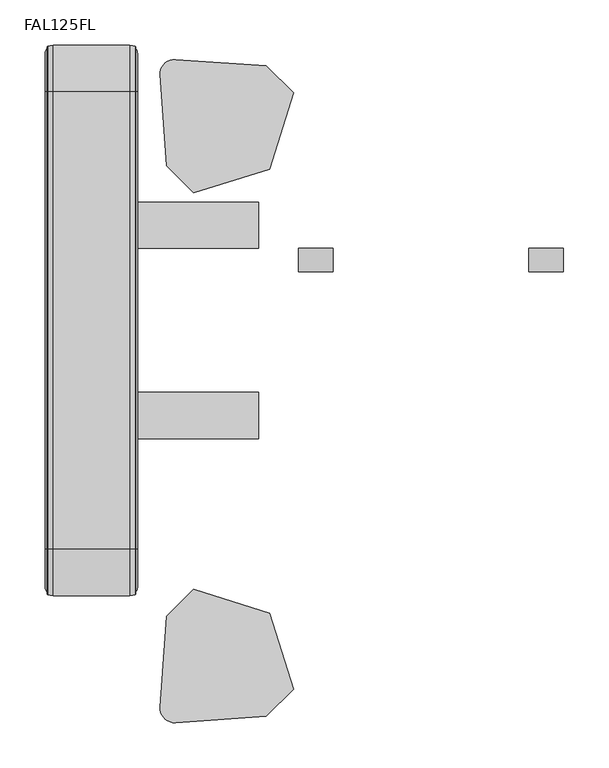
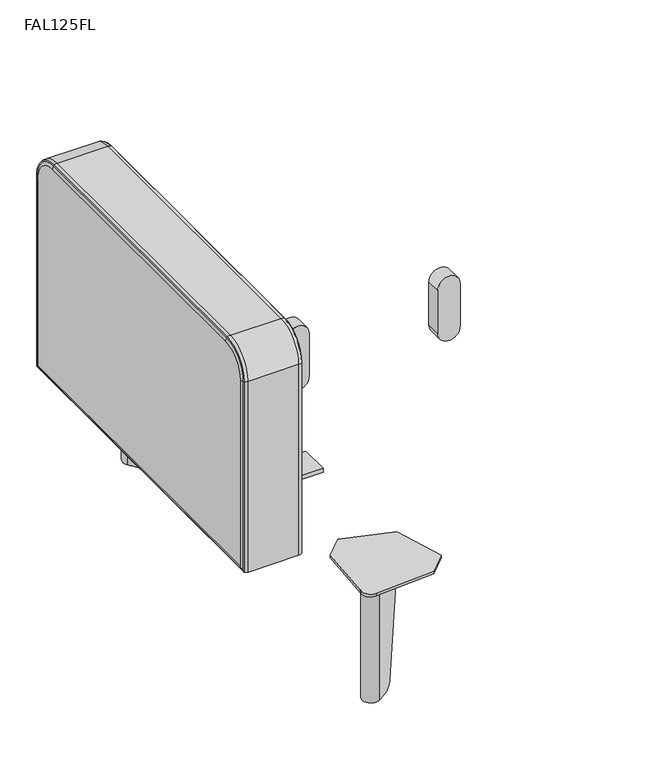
"""IFC4 building model written with IfcOpenShell, lengths in millimetres: furniture geometry, Stance_HC-Flora-Seat_Straight : FAL125FL."""

from ifc_helpers import new_model, si_unit, point, frame, frame_2d, origin, origin_with_axes, place, context, project, spatial, polyline, circle_curve, ellipse_curve, trimmed, segment, composite_curve, outline, extrude, source, transform, mapped, element, save
from ifc_brep_helpers import plane_surface, cylinder_surface, revolved_surface, advanced_brep


def fal125fl_39e8f560(model_context):
    return source(origin(), model_context, "Body", "SolidModel", [
        extrude(outline(composite_curve([segment(polyline([(319.1128982, -12.699997), (319.1128982, -19.0500091), (204.8129042, -19.0500091)]), True, "CONTINUOUS"), segment(trimmed(circle_curve(frame_2d((204.8129042, -6.349997)), 12.7000121), [point((204.8129042, -19.0500091))], [point((192.1128921, -6.349997))], False, "CARTESIAN"), True, "CONTINUOUS"), segment(polyline([(192.1128921, -6.349997), (192.1128921, 126.999997), (198.4629042, 126.999997), (198.4629042, -6.349997)]), True, "CONTINUOUS"), segment(trimmed(circle_curve(frame_2d((204.8129042, -6.349997)), 6.35), [point((198.4629042, -6.349997))], [point((204.8129042, -12.699997))], True, "CARTESIAN"), True, "CONTINUOUS"), segment(polyline([(204.8129042, -12.699997), (319.1128982, -12.699997)]), True, "CONTINUOUS")], self_intersect=False)), frame((0.0, -223.8501991, 0.0), z_axis=(0.0, 1.0, 0.0), x_axis=(0.0, 0.0, 1.0)), (0.0, 0.0, 1.0), 50.7999879),
        extrude(outline(composite_curve([segment(polyline([(319.1128982, -12.699997), (319.1128982, -19.0500091), (204.8129042, -19.0500091)]), True, "CONTINUOUS"), segment(trimmed(circle_curve(frame_2d((204.8129042, -6.349997)), 12.7000121), [point((204.8129042, -19.0500091))], [point((192.1128921, -6.349997))], False, "CARTESIAN"), True, "CONTINUOUS"), segment(polyline([(192.1128921, -6.349997), (192.1128921, 126.999997), (198.4629042, 126.999997), (198.4629042, -6.349997)]), True, "CONTINUOUS"), segment(trimmed(circle_curve(frame_2d((204.8129042, -6.349997)), 6.35), [point((198.4629042, -6.349997))], [point((204.8129042, -12.699997))], True, "CARTESIAN"), True, "CONTINUOUS"), segment(polyline([(204.8129042, -12.699997), (319.1128982, -12.699997)]), True, "CONTINUOUS")], self_intersect=False)), frame((0.0, -433.3239864, 0.0), z_axis=(0.0, 1.0, 0.0), x_axis=(0.0, 0.0, 1.0)), (0.0, 0.0, 1.0), 50.7999879),
        advanced_brep(
        [(-6.3499485, -555.6250121, 580.256636), (-6.3499485, -597.6937621, 538.187886), (-6.3499485, -597.6937621, 207.1941542), (-6.3499485, -8.73125, 207.1941542), (-6.3499485, -8.73125, 538.187886), (-6.3499485, -50.8, 580.256636), (-107.949997, -597.6937621, 538.187886), (-107.949997, -555.6250121, 580.256636), (-107.949997, -50.8, 580.256636), (-107.949997, -8.73125, 538.187886), (-107.949997, -8.73125, 207.1941542), (-107.949997, -597.6937621, 207.1941542), (-14.834142, -606.4250121, 538.187886), (-14.834142, -555.6250121, 588.987886), (-99.4658035, -555.6250121, 588.987886), (-99.4658035, -606.4250121, 538.187886), (-99.4658035, -606.4250121, 198.4629042), (-14.834142, -606.4250121, 198.4629042), (-99.4658035, 0.0, 198.4629042), (-14.834142, 0.0, 198.4629042), (-99.4658035, 0.0, 538.187886), (-14.834142, 0.0, 538.187886), (-99.4658035, -50.8, 588.987886), (-14.834142, -50.8, 588.987886), (-105.3065441, -603.3867316, 538.187886), (-105.3065441, -555.6250121, 585.9496056), (-105.3689212, -605.3204213, 538.187886), (-105.3689212, -555.6250121, 587.8832953), (-105.3065441, -603.3867316, 201.5011847), (-105.3689212, -605.3204213, 199.567495), (-105.3065441, -3.0382805, 201.5011847), (-105.3689212, -1.1045908, 199.567495), (-105.3065441, -3.0382805, 538.187886), (-105.3689212, -1.1045908, 538.187886), (-105.3065441, -50.8, 585.9496056), (-105.3689212, -50.8, 587.8832953), (-8.9310243, -605.3204213, 538.187886), (-8.9310243, -555.6250121, 587.8832953), (-8.9934014, -603.3867316, 538.187886), (-8.9934014, -555.6250121, 585.9496056), (-8.9310243, -605.3204213, 199.567495), (-8.9934014, -603.3867316, 201.5011847), (-8.9310243, -1.1045908, 199.567495), (-8.9934014, -3.0382805, 201.5011847), (-8.9310243, -1.1045908, 538.187886), (-8.9934014, -3.0382805, 538.187886), (-8.9310243, -50.8, 587.8832953), (-8.9934014, -50.8, 585.9496056)],
        [
            (0, 1, circle_curve(frame((-6.3499485, -555.6250121, 538.187886), z_axis=(1.0, 0.0, 0.0), x_axis=(0.0, 0.0, 1.0)), 42.06875)),
            (1, 2),
            (2, 3),
            (3, 4),
            (4, 5, circle_curve(frame((-6.3499485, -50.8, 538.187886), z_axis=(1.0, 0.0, 0.0), x_axis=(0.0, 1.0, 0.0)), 42.06875)),
            (5, 0),
            (6, 7, circle_curve(frame((-107.949997, -555.6250121, 538.187886), z_axis=(-1.0, 0.0, 0.0), x_axis=(0.0, 0.0, 1.0)), 42.06875)),
            (7, 8),
            (8, 9, circle_curve(frame((-107.949997, -50.8, 538.187886), z_axis=(-1.0, 0.0, 0.0), x_axis=(0.0, 1.0, 0.0)), 42.06875)),
            (9, 10),
            (10, 11),
            (11, 6),
            (12, 13, circle_curve(frame((-14.834142, -555.6250121, 538.187886), z_axis=(-1.0, 0.0, 0.0), x_axis=(0.0, 0.0, 1.0)), 50.8)),
            (13, 14),
            (14, 15, circle_curve(frame((-99.4658035, -555.6250121, 538.187886), z_axis=(1.0, 0.0, 0.0), x_axis=(0.0, 0.0, 1.0)), 50.8)),
            (15, 12),
            (15, 16),
            (16, 17),
            (17, 12),
            (16, 18),
            (18, 19),
            (19, 17),
            (18, 20),
            (20, 21),
            (21, 19),
            (20, 22, circle_curve(frame((-99.4658035, -50.8, 538.187886), z_axis=(1.0, 0.0, 0.0), x_axis=(0.0, 1.0, 0.0)), 50.8)),
            (22, 23),
            (23, 21, circle_curve(frame((-14.834142, -50.8, 538.187886), z_axis=(-1.0, 0.0, 0.0), x_axis=(0.0, 1.0, 0.0)), 50.8)),
            (13, 23),
            (22, 14),
            (24, 25, circle_curve(frame((-105.3065441, -555.6250121, 538.187886), z_axis=(-1.0, 0.0, 0.0), x_axis=(0.0, 0.0, 1.0)), 47.7617195)),
            (25, 7, circle_curve(frame((-100.4980492, -555.6250121, 580.256636), z_axis=(0.0, -1.0, 0.0), x_axis=(0.0, 0.0, -1.0)), 7.4519478)),
            (6, 24, circle_curve(frame((-100.4980492, -597.6937621, 538.187886), z_axis=(0.0, 0.0, 1.0), x_axis=(0.0, 1.0, 0.0)), 7.4519478)),
            (24, 26, circle_curve(frame((-104.9982081, -604.3645289, 538.187886), z_axis=(0.0, 0.0, 1.0), x_axis=(0.0, 1.0, 0.0)), 1.0252602)),
            (26, 27, circle_curve(frame((-105.3689212, -555.6250121, 538.187886), z_axis=(-1.0, 0.0, 0.0), x_axis=(0.0, 0.0, 1.0)), 49.6954092)),
            (27, 25, circle_curve(frame((-104.9982081, -555.6250121, 586.9274028), z_axis=(0.0, -1.0, 0.0), x_axis=(0.0, 0.0, -1.0)), 1.0252602)),
            (14, 27, circle_curve(frame((-99.4658035, -555.6250121, 572.661967), z_axis=(0.0, -1.0, 0.0), x_axis=(0.0, 0.0, -1.0)), 16.3259191)),
            (26, 15, circle_curve(frame((-99.4658035, -590.099093, 538.187886), z_axis=(0.0, 0.0, 1.0), x_axis=(0.0, 1.0, 0.0)), 16.3259191)),
            (11, 28, ellipse_curve(frame((-100.4980492, -597.6937621, 207.1941542), z_axis=(0.0, -0.7071067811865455, 0.7071067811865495), x_axis=(0.0, 0.7071067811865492, 0.7071067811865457)), 10.5386456, 7.4519478)),
            (28, 24),
            (28, 29, ellipse_curve(frame((-104.9982081, -604.3645289, 200.5233874), z_axis=(0.0, -0.7071067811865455, 0.7071067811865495), x_axis=(0.0, 0.7071067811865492, 0.7071067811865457)), 1.4499369, 1.0252602)),
            (29, 26),
            (29, 16, ellipse_curve(frame((-99.4658035, -590.099093, 214.7888233), z_axis=(0.0, -0.7071067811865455, 0.7071067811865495), x_axis=(0.0, 0.7071067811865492, 0.7071067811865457)), 23.0883362, 16.3259191)),
            (10, 30, ellipse_curve(frame((-100.4980492, -8.73125, 207.1941542), z_axis=(0.0, -0.7071067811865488, -0.7071067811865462), x_axis=(0.0, -0.7071067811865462, 0.7071067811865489)), 10.5386456, 7.4519478)),
            (30, 28),
            (30, 31, ellipse_curve(frame((-104.9982081, -2.0604832, 200.5233874), z_axis=(0.0, -0.7071067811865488, -0.7071067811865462), x_axis=(0.0, -0.7071067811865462, 0.7071067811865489)), 1.4499369, 1.0252602)),
            (31, 29),
            (31, 18, ellipse_curve(frame((-99.4658035, -16.3259191, 214.7888233), z_axis=(0.0, -0.7071067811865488, -0.7071067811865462), x_axis=(0.0, -0.7071067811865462, 0.7071067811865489)), 23.0883362, 16.3259191)),
            (9, 32, circle_curve(frame((-100.4980492, -8.73125, 538.187886), z_axis=(0.0, 0.0, -1.0), x_axis=(0.0, -1.0, 0.0)), 7.4519478)),
            (32, 30),
            (32, 33, circle_curve(frame((-104.9982081, -2.0604832, 538.187886), z_axis=(0.0, 0.0, -1.0), x_axis=(0.0, -1.0, 0.0)), 1.0252602)),
            (33, 31),
            (33, 20, circle_curve(frame((-99.4658035, -16.3259191, 538.187886), z_axis=(0.0, 0.0, -1.0), x_axis=(0.0, -1.0, 0.0)), 16.3259191)),
            (8, 34, circle_curve(frame((-100.4980492, -50.8, 580.256636), z_axis=(0.0, 1.0, 0.0), x_axis=(0.0, 0.0, -1.0)), 7.4519478)),
            (34, 32, circle_curve(frame((-105.3065441, -50.8, 538.187886), z_axis=(-1.0, 0.0, 0.0), x_axis=(0.0, 1.0, 0.0)), 47.7617195)),
            (34, 35, circle_curve(frame((-104.9982081, -50.8, 586.9274028), z_axis=(0.0, 1.0, 0.0), x_axis=(0.0, 0.0, -1.0)), 1.0252602)),
            (35, 33, circle_curve(frame((-105.3689212, -50.8, 538.187886), z_axis=(-1.0, 0.0, 0.0), x_axis=(0.0, 1.0, 0.0)), 49.6954092)),
            (35, 22, circle_curve(frame((-99.4658035, -50.8, 572.661967), z_axis=(0.0, 1.0, 0.0), x_axis=(0.0, 0.0, -1.0)), 16.3259191)),
            (25, 34),
            (27, 35),
            (12, 36, circle_curve(frame((-14.834142, -590.099093, 538.187886), z_axis=(0.0, 0.0, 1.0), x_axis=(0.0, 1.0, 0.0)), 16.3259191)),
            (36, 37, circle_curve(frame((-8.9310243, -555.6250121, 538.187886), z_axis=(-1.0, 0.0, 0.0), x_axis=(0.0, 0.0, 1.0)), 49.6954092)),
            (37, 13, circle_curve(frame((-14.834142, -555.6250121, 572.661967), z_axis=(0.0, -1.0, 0.0), x_axis=(0.0, 0.0, -1.0)), 16.3259191)),
            (36, 38, circle_curve(frame((-9.3017374, -604.3645289, 538.187886), z_axis=(0.0, 0.0, 1.0), x_axis=(0.0, 1.0, 0.0)), 1.0252602)),
            (38, 39, circle_curve(frame((-8.9934014, -555.6250121, 538.187886), z_axis=(-1.0, 0.0, 0.0), x_axis=(0.0, 0.0, 1.0)), 47.7617195)),
            (39, 37, circle_curve(frame((-9.3017374, -555.6250121, 586.9274028), z_axis=(0.0, -1.0, 0.0), x_axis=(0.0, 0.0, -1.0)), 1.0252602)),
            (38, 1, circle_curve(frame((-13.8018963, -597.6937621, 538.187886), z_axis=(0.0, 0.0, 1.0), x_axis=(0.0, 1.0, 0.0)), 7.4519478)),
            (0, 39, circle_curve(frame((-13.8018963, -555.6250121, 580.256636), z_axis=(0.0, -1.0, 0.0), x_axis=(0.0, 0.0, -1.0)), 7.4519478)),
            (17, 40, ellipse_curve(frame((-14.834142, -590.099093, 214.7888233), z_axis=(0.0, -0.7071067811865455, 0.7071067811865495), x_axis=(0.0, 0.7071067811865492, 0.7071067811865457)), 23.0883362, 16.3259191)),
            (40, 36),
            (40, 41, ellipse_curve(frame((-9.3017374, -604.3645289, 200.5233874), z_axis=(0.0, -0.7071067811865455, 0.7071067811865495), x_axis=(0.0, 0.7071067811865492, 0.7071067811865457)), 1.4499369, 1.0252602)),
            (41, 38),
            (41, 2, ellipse_curve(frame((-13.8018963, -597.6937621, 207.1941542), z_axis=(0.0, -0.7071067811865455, 0.7071067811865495), x_axis=(0.0, 0.7071067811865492, 0.7071067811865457)), 10.5386456, 7.4519478)),
            (19, 42, ellipse_curve(frame((-14.834142, -16.3259191, 214.7888233), z_axis=(0.0, -0.7071067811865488, -0.7071067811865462), x_axis=(0.0, -0.7071067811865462, 0.7071067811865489)), 23.0883362, 16.3259191)),
            (42, 40),
            (42, 43, ellipse_curve(frame((-9.3017374, -2.0604832, 200.5233874), z_axis=(0.0, -0.7071067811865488, -0.7071067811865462), x_axis=(0.0, -0.7071067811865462, 0.7071067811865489)), 1.4499369, 1.0252602)),
            (43, 41),
            (43, 3, ellipse_curve(frame((-13.8018963, -8.73125, 207.1941542), z_axis=(0.0, -0.7071067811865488, -0.7071067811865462), x_axis=(0.0, -0.7071067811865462, 0.7071067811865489)), 10.5386456, 7.4519478)),
            (21, 44, circle_curve(frame((-14.834142, -16.3259191, 538.187886), z_axis=(0.0, 0.0, -1.0), x_axis=(0.0, -1.0, 0.0)), 16.3259191)),
            (44, 42),
            (44, 45, circle_curve(frame((-9.3017374, -2.0604832, 538.187886), z_axis=(0.0, 0.0, -1.0), x_axis=(0.0, -1.0, 0.0)), 1.0252602)),
            (45, 43),
            (45, 4, circle_curve(frame((-13.8018963, -8.73125, 538.187886), z_axis=(0.0, 0.0, -1.0), x_axis=(0.0, -1.0, 0.0)), 7.4519478)),
            (23, 46, circle_curve(frame((-14.834142, -50.8, 572.661967), z_axis=(0.0, 1.0, 0.0), x_axis=(0.0, 0.0, -1.0)), 16.3259191)),
            (46, 44, circle_curve(frame((-8.9310243, -50.8, 538.187886), z_axis=(-1.0, 0.0, 0.0), x_axis=(0.0, 1.0, 0.0)), 49.6954092)),
            (46, 47, circle_curve(frame((-9.3017374, -50.8, 586.9274028), z_axis=(0.0, 1.0, 0.0), x_axis=(0.0, 0.0, -1.0)), 1.0252602)),
            (47, 45, circle_curve(frame((-8.9934014, -50.8, 538.187886), z_axis=(-1.0, 0.0, 0.0), x_axis=(0.0, 1.0, 0.0)), 47.7617195)),
            (47, 5, circle_curve(frame((-13.8018963, -50.8, 580.256636), z_axis=(0.0, 1.0, 0.0), x_axis=(0.0, 0.0, -1.0)), 7.4519478)),
            (37, 46),
            (39, 47),
        ],
        [
            plane_surface(frame((-6.3499485, -555.6250121, 580.256636), z_axis=(1.0, 0.0, 0.0), x_axis=(0.0, -1.0, 0.0))),
            plane_surface(frame((-107.949997, -555.6250121, 580.256636), z_axis=(-1.0, 0.0, 0.0), x_axis=(0.0, 1.0, 0.0))),
            cylinder_surface(frame((0.0, -555.6250121, 538.187886), z_axis=(1.0, 0.0, 0.0), x_axis=(0.0, 0.0, 1.0)), 50.8),
            plane_surface(frame((-99.4658035, -606.4250121, 538.187886), z_axis=(0.0, -1.0, 0.0), x_axis=(0.0, 0.0, -1.0))),
            plane_surface(frame((-99.4658035, -606.4250121, 198.4629042), z_axis=(0.0, 0.0, -1.0), x_axis=(0.0, 1.0, 0.0))),
            plane_surface(frame((-99.4658035, 0.0, 198.4629042), z_axis=(0.0, 1.0, 0.0), x_axis=(0.0, 0.0, 1.0))),
            cylinder_surface(frame((0.0, -50.8, 538.187886), z_axis=(1.0, 0.0, 0.0), x_axis=(0.0, 1.0, 0.0)), 50.8),
            plane_surface(frame((-99.4658035, -50.8, 588.987886), z_axis=(0.0, 0.0, 1.0), x_axis=(0.0, -1.0, 0.0))),
            revolved_surface(trimmed(ellipse_curve(frame((-100.4980492, -555.6250121, 580.256636), z_axis=(0.0, 1.0, 0.0), x_axis=(0.0, 0.0, -1.0)), 7.4519478, 7.4519478), [point((-107.949997, -555.6250121, 580.256636))], [point((-105.3065441, -555.6250121, 585.9496056))], True, "CARTESIAN"), (0.0, -555.6250121, 538.187886), (1.0, 0.0, 0.0)),
            revolved_surface(trimmed(ellipse_curve(frame((-104.9982081, -555.6250121, 586.9274028), z_axis=(0.0, 1.0, 0.0), x_axis=(0.0, 0.0, -1.0)), 1.0252602, 1.0252602), [point((-105.3065441, -555.6250121, 585.9496056))], [point((-105.3689212, -555.6250121, 587.8832953))], True, "CARTESIAN"), (0.0, -555.6250121, 538.187886), (1.0, 0.0, 0.0)),
            revolved_surface(trimmed(ellipse_curve(frame((-99.4658035, -555.6250121, 572.661967), z_axis=(0.0, 1.0, 0.0), x_axis=(0.0, 0.0, -1.0)), 16.3259191, 16.3259191), [point((-105.3689212, -555.6250121, 587.8832953))], [point((-99.4658035, -555.6250121, 588.987886))], True, "CARTESIAN"), (0.0, -555.6250121, 538.187886), (1.0, 0.0, 0.0)),
            cylinder_surface(frame((-100.4980492, -597.6937621, 538.187886), z_axis=(0.0, 0.0, 1.0), x_axis=(0.0, 1.0, 0.0)), 7.4519478),
            cylinder_surface(frame((-104.9982081, -604.3645289, 538.187886), z_axis=(0.0, 0.0, 1.0), x_axis=(0.0, 1.0, 0.0)), 1.0252602),
            cylinder_surface(frame((-99.4658035, -590.099093, 538.187886), z_axis=(0.0, 0.0, 1.0), x_axis=(0.0, 1.0, 0.0)), 16.3259191),
            cylinder_surface(frame((-100.4980492, -606.4250121, 207.1941542), z_axis=(0.0, -1.0, 0.0), x_axis=(0.0, 0.0, 1.0)), 7.4519478),
            cylinder_surface(frame((-104.9982081, -606.4250121, 200.5233874), z_axis=(0.0, -1.0, 0.0), x_axis=(0.0, 0.0, 1.0)), 1.0252602),
            cylinder_surface(frame((-99.4658035, -606.4250121, 214.7888233), z_axis=(0.0, -1.0, 0.0), x_axis=(0.0, 0.0, 1.0)), 16.3259191),
            cylinder_surface(frame((-100.4980492, -8.73125, 198.4629042), z_axis=(0.0, 0.0, -1.0), x_axis=(0.0, -1.0, 0.0)), 7.4519478),
            cylinder_surface(frame((-104.9982081, -2.0604832, 198.4629042), z_axis=(0.0, 0.0, -1.0), x_axis=(0.0, -1.0, 0.0)), 1.0252602),
            cylinder_surface(frame((-99.4658035, -16.3259191, 198.4629042), z_axis=(0.0, 0.0, -1.0), x_axis=(0.0, -1.0, 0.0)), 16.3259191),
            revolved_surface(trimmed(ellipse_curve(frame((-100.4980492, -8.73125, 538.187886), z_axis=(0.0, 0.0, -1.0), x_axis=(0.0, -1.0, 0.0)), 7.4519478, 7.4519478), [point((-107.949997, -8.73125, 538.187886))], [point((-105.3065441, -3.0382805, 538.187886))], True, "CARTESIAN"), (0.0, -50.8, 538.187886), (1.0, 0.0, 0.0)),
            revolved_surface(trimmed(ellipse_curve(frame((-104.9982081, -2.0604832, 538.187886), z_axis=(0.0, 0.0, -1.0), x_axis=(0.0, -1.0, 0.0)), 1.0252602, 1.0252602), [point((-105.3065441, -3.0382805, 538.187886))], [point((-105.3689212, -1.1045908, 538.187886))], True, "CARTESIAN"), (0.0, -50.8, 538.187886), (1.0, 0.0, 0.0)),
            revolved_surface(trimmed(ellipse_curve(frame((-99.4658035, -16.3259191, 538.187886), z_axis=(0.0, 0.0, -1.0), x_axis=(0.0, -1.0, 0.0)), 16.3259191, 16.3259191), [point((-105.3689212, -1.1045908, 538.187886))], [point((-99.4658035, 0.0, 538.187886))], True, "CARTESIAN"), (0.0, -50.8, 538.187886), (1.0, 0.0, 0.0)),
            cylinder_surface(frame((-100.4980492, -50.8, 580.256636), z_axis=(0.0, 1.0, 0.0), x_axis=(0.0, 0.0, -1.0)), 7.4519478),
            cylinder_surface(frame((-104.9982081, -50.8, 586.9274028), z_axis=(0.0, 1.0, 0.0), x_axis=(0.0, 0.0, -1.0)), 1.0252602),
            cylinder_surface(frame((-99.4658035, -50.8, 572.661967), z_axis=(0.0, 1.0, 0.0), x_axis=(0.0, 0.0, -1.0)), 16.3259191),
            revolved_surface(trimmed(ellipse_curve(frame((-14.834142, -555.6250121, 572.661967), z_axis=(0.0, 1.0, 0.0), x_axis=(0.0, 0.0, -1.0)), 16.3259191, 16.3259191), [point((-14.834142, -555.6250121, 588.987886))], [point((-8.9310243, -555.6250121, 587.8832953))], True, "CARTESIAN"), (0.0, -555.6250121, 538.187886), (1.0, 0.0, 0.0)),
            revolved_surface(trimmed(ellipse_curve(frame((-9.3017374, -555.6250121, 586.9274028), z_axis=(0.0, 1.0, 0.0), x_axis=(0.0, 0.0, -1.0)), 1.0252602, 1.0252602), [point((-8.9310243, -555.6250121, 587.8832953))], [point((-8.9934014, -555.6250121, 585.9496056))], True, "CARTESIAN"), (0.0, -555.6250121, 538.187886), (1.0, 0.0, 0.0)),
            revolved_surface(trimmed(ellipse_curve(frame((-13.8018963, -555.6250121, 580.256636), z_axis=(0.0, 1.0, 0.0), x_axis=(0.0, 0.0, -1.0)), 7.4519478, 7.4519478), [point((-8.9934014, -555.6250121, 585.9496056))], [point((-6.3499485, -555.6250121, 580.256636))], True, "CARTESIAN"), (0.0, -555.6250121, 538.187886), (1.0, 0.0, 0.0)),
            cylinder_surface(frame((-14.834142, -590.099093, 538.187886), z_axis=(0.0, 0.0, 1.0), x_axis=(0.0, 1.0, 0.0)), 16.3259191),
            cylinder_surface(frame((-9.3017374, -604.3645289, 538.187886), z_axis=(0.0, 0.0, 1.0), x_axis=(0.0, 1.0, 0.0)), 1.0252602),
            cylinder_surface(frame((-13.8018963, -597.6937621, 538.187886), z_axis=(0.0, 0.0, 1.0), x_axis=(0.0, 1.0, 0.0)), 7.4519478),
            cylinder_surface(frame((-14.834142, -606.4250121, 214.7888233), z_axis=(0.0, -1.0, 0.0), x_axis=(0.0, 0.0, 1.0)), 16.3259191),
            cylinder_surface(frame((-9.3017374, -606.4250121, 200.5233874), z_axis=(0.0, -1.0, 0.0), x_axis=(0.0, 0.0, 1.0)), 1.0252602),
            cylinder_surface(frame((-13.8018963, -606.4250121, 207.1941542), z_axis=(0.0, -1.0, 0.0), x_axis=(0.0, 0.0, 1.0)), 7.4519478),
            cylinder_surface(frame((-14.834142, -16.3259191, 198.4629042), z_axis=(0.0, 0.0, -1.0), x_axis=(0.0, -1.0, 0.0)), 16.3259191),
            cylinder_surface(frame((-9.3017374, -2.0604832, 198.4629042), z_axis=(0.0, 0.0, -1.0), x_axis=(0.0, -1.0, 0.0)), 1.0252602),
            cylinder_surface(frame((-13.8018963, -8.73125, 198.4629042), z_axis=(0.0, 0.0, -1.0), x_axis=(0.0, -1.0, 0.0)), 7.4519478),
            revolved_surface(trimmed(ellipse_curve(frame((-14.834142, -16.3259191, 538.187886), z_axis=(0.0, 0.0, -1.0), x_axis=(0.0, -1.0, 0.0)), 16.3259191, 16.3259191), [point((-14.834142, 0.0, 538.187886))], [point((-8.9310243, -1.1045908, 538.187886))], True, "CARTESIAN"), (0.0, -50.8, 538.187886), (1.0, 0.0, 0.0)),
            revolved_surface(trimmed(ellipse_curve(frame((-9.3017374, -2.0604832, 538.187886), z_axis=(0.0, 0.0, -1.0), x_axis=(0.0, -1.0, 0.0)), 1.0252602, 1.0252602), [point((-8.9310243, -1.1045908, 538.187886))], [point((-8.9934014, -3.0382805, 538.187886))], True, "CARTESIAN"), (0.0, -50.8, 538.187886), (1.0, 0.0, 0.0)),
            revolved_surface(trimmed(ellipse_curve(frame((-13.8018963, -8.73125, 538.187886), z_axis=(0.0, 0.0, -1.0), x_axis=(0.0, -1.0, 0.0)), 7.4519478, 7.4519478), [point((-8.9934014, -3.0382805, 538.187886))], [point((-6.3499485, -8.73125, 538.187886))], True, "CARTESIAN"), (0.0, -50.8, 538.187886), (1.0, 0.0, 0.0)),
            cylinder_surface(frame((-14.834142, -50.8, 572.661967), z_axis=(0.0, 1.0, 0.0), x_axis=(0.0, 0.0, -1.0)), 16.3259191),
            cylinder_surface(frame((-9.3017374, -50.8, 586.9274028), z_axis=(0.0, 1.0, 0.0), x_axis=(0.0, 0.0, -1.0)), 1.0252602),
            cylinder_surface(frame((-13.8018963, -50.8, 580.256636), z_axis=(0.0, 1.0, 0.0), x_axis=(0.0, 0.0, -1.0)), 7.4519478),
        ],
        [
            (0, [[1, 2, 3, 4, 5, 6]]),
            (1, [[7, 8, 9, 10, 11, 12]]),
            (2, [[13, 14, 15, 16]]),
            (3, [[-16, 17, 18, 19]]),
            (4, [[-18, 20, 21, 22]]),
            (5, [[-21, 23, 24, 25]]),
            (6, [[-24, 26, 27, 28]]),
            (7, [[-14, 29, -27, 30]]),
            (8, [[31, 32, -7, 33]]),
            (9, [[-31, 34, 35, 36]]),
            (10, [[-15, 37, -35, 38]]),
            (11, [[-33, -12, 39, 40]]),
            (12, [[-34, -40, 41, 42]]),
            (13, [[-17, -38, -42, 43]]),
            (14, [[-39, -11, 44, 45]]),
            (15, [[-41, -45, 46, 47]]),
            (16, [[-20, -43, -47, 48]]),
            (17, [[-44, -10, 49, 50]]),
            (18, [[-46, -50, 51, 52]]),
            (19, [[-23, -48, -52, 53]]),
            (20, [[-49, -9, 54, 55]]),
            (21, [[-51, -55, 56, 57]]),
            (22, [[-26, -53, -57, 58]]),
            (23, [[-32, 59, -54, -8]]),
            (24, [[-36, 60, -56, -59]]),
            (25, [[-30, -58, -60, -37]]),
            (26, [[-13, 61, 62, 63]]),
            (27, [[-62, 64, 65, 66]]),
            (28, [[-65, 67, -1, 68]]),
            (29, [[-19, 69, 70, -61]]),
            (30, [[-64, -70, 71, 72]]),
            (31, [[-67, -72, 73, -2]]),
            (32, [[-22, 74, 75, -69]]),
            (33, [[-71, -75, 76, 77]]),
            (34, [[-73, -77, 78, -3]]),
            (35, [[-25, 79, 80, -74]]),
            (36, [[-76, -80, 81, 82]]),
            (37, [[-78, -82, 83, -4]]),
            (38, [[-28, 84, 85, -79]]),
            (39, [[-81, -85, 86, 87]]),
            (40, [[-83, -87, 88, -5]]),
            (41, [[-29, -63, 89, -84]]),
            (42, [[-66, 90, -86, -89]]),
            (43, [[-68, -6, -88, -90]]),
        ],
    ),
        extrude(outline(composite_curve([segment(polyline([(298.45, 425.45), (222.25, 425.45)]), True, "CONTINUOUS"), segment(trimmed(circle_curve(frame_2d((222.25, 444.5)), 19.05), [point((222.25, 425.45))], [point((222.25, 463.55))], False, "CARTESIAN"), True, "CONTINUOUS"), segment(polyline([(222.25, 463.55), (298.45, 463.55)]), True, "CONTINUOUS"), segment(trimmed(circle_curve(frame_2d((298.45, 444.5)), 19.05), [point((298.45, 463.55))], [point((298.45, 425.45))], False, "CARTESIAN"), True, "CONTINUOUS")], self_intersect=False)), frame((0.0, -249.250193, 0.0), z_axis=(0.0, 1.0, 0.0), x_axis=(0.0, 0.0, 1.0)), (0.0, 0.0, 1.0), 25.3999939),
        extrude(outline(composite_curve([segment(polyline([(298.45, 171.45), (222.25, 171.45)]), True, "CONTINUOUS"), segment(trimmed(circle_curve(frame_2d((222.25, 190.5)), 19.05), [point((222.25, 171.45))], [point((222.25, 209.55))], False, "CARTESIAN"), True, "CONTINUOUS"), segment(polyline([(222.25, 209.55), (298.45, 209.55)]), True, "CONTINUOUS"), segment(trimmed(circle_curve(frame_2d((298.45, 190.5)), 19.05), [point((298.45, 209.55))], [point((298.45, 171.45))], False, "CARTESIAN"), True, "CONTINUOUS")], self_intersect=False)), frame((0.0, -249.250193, 0.0), z_axis=(0.0, 1.0, 0.0), x_axis=(0.0, 0.0, 1.0)), (0.0, 0.0, 1.0), 25.3999939),
        extrude(outline(composite_curve([segment(polyline([(55.8307262, -729.4814086), (42.5258264, -738.7976359)]), True, "CONTINUOUS"), segment(trimmed(circle_curve(frame_2d((35.875307, -729.2997467)), 11.5947965), [point((42.5258264, -738.7976359))], [point((26.3774179, -722.6492273))], False, "CARTESIAN"), True, "CONTINUOUS"), segment(polyline([(26.3774179, -722.6492273), (35.6936452, -709.3443276), (55.8307262, -729.4814086)]), True, "CONTINUOUS")], self_intersect=False)), frame((0.0, 0.0, 3.175), z_axis=(0.0, 0.0, 1.0), x_axis=(1.0, 0.0, 0.0)), (0.0, 0.0, 1.0), 3.3792927),
        advanced_brep(
        [(55.6685471, -675.2134177, 193.6877233), (23.7444406, -720.8055896, 193.6877233), (44.3694641, -741.4306132, 193.6877233), (89.9616334, -709.5065086, 193.6877233), (88.1179957, -706.8735312, 193.6877233), (42.5258264, -738.7976359, 193.6877233), (26.3774179, -722.6492273, 193.6877233), (58.3015244, -677.0570554, 193.6877233), (55.6685471, -675.2134177, 189.1419595), (26.3774179, -722.6492273, 3.1876992), (36.4981274, -708.1954123, 3.1876992), (45.6752235, -695.0892118, 17.1280233), (42.5258264, -738.7976359, 3.1876992), (70.085842, -719.4998302, 17.1280233), (56.9796414, -728.6769263, 3.1876992), (89.9616334, -709.5065086, 189.1419334), (44.3694641, -741.4306132, 3.1876992), (59.2875391, -730.984824, 3.1876992), (72.3937397, -721.8077279, 17.1280233), (23.7444406, -720.8055896, 3.1876992), (43.3673258, -692.781314, 17.1280233), (34.1902297, -705.8875146, 3.1876992)],
        [
            (0, 1),
            (1, 2, circle_curve(frame((35.875307, -729.2997467, 193.6877233), z_axis=(0.0, 0.0, 1.0), x_axis=(1.0, 0.0, 0.0)), 14.8090724)),
            (2, 3),
            (3, 4),
            (4, 5),
            (5, 6, circle_curve(frame((35.875307, -729.2997467, 193.6877233), z_axis=(0.0, 0.0, -1.0), x_axis=(1.0, 0.0, 0.0)), 11.5947965)),
            (6, 7),
            (7, 0),
            (7, 8),
            (8, 0),
            (6, 9),
            (9, 10),
            (10, 11, ellipse_curve(frame((36.4981274, -708.1954123, 19.0626992), z_axis=(0.8191509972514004, -0.5735779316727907, 0.0), x_axis=(0.5735779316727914, 0.8191509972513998, 0.0)), 16.1198923, 15.875)),
            (11, 7),
            (5, 12),
            (12, 9, circle_curve(frame((35.875307, -729.2997467, 3.1876992), z_axis=(0.0, 0.0, -1.0), x_axis=(1.0, 0.0, 0.0)), 11.5947965)),
            (4, 13),
            (13, 14, ellipse_curve(frame((56.9796414, -728.6769263, 19.0626992), z_axis=(-0.5735779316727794, 0.8191509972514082, 0.0), x_axis=(-0.8191509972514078, -0.5735779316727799, 0.0)), 16.1198923, 15.875)),
            (14, 12),
            (3, 15),
            (15, 4),
            (2, 16),
            (16, 17),
            (17, 18, ellipse_curve(frame((59.2875391, -730.984824, 19.0626992), z_axis=(0.5735779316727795, -0.8191509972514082, 0.0), x_axis=(-0.8191509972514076, -0.5735779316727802, 0.0)), 16.1198923, 15.875)),
            (18, 15),
            (1, 19),
            (19, 16, circle_curve(frame((35.875307, -729.2997467, 3.1876992), z_axis=(0.0, 0.0, 1.0), x_axis=(1.0, 0.0, 0.0)), 14.8090724)),
            (8, 20),
            (20, 21, ellipse_curve(frame((34.1902297, -705.8875146, 19.0626992), z_axis=(-0.8191509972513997, 0.5735779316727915, 0.0), x_axis=(0.573577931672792, 0.8191509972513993, 0.0)), 16.1198923, 15.875)),
            (21, 19),
            (18, 13),
            (11, 20),
            (21, 10),
            (14, 17),
        ],
        [
            plane_surface(frame((58.3015244, -677.0570554, 193.6877233), z_axis=(0.0, 0.0, 0.9999999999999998), x_axis=(0.8191509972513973, -0.5735779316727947, 0.0))),
            plane_surface(frame((55.6685471, -675.2134177, 193.6877233), z_axis=(0.5735779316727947, 0.8191509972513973, 0.0), x_axis=(0.0, 0.0, -1.0))),
            plane_surface(frame((58.3015244, -677.0570554, 193.6877233), z_axis=(0.8191509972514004, -0.5735779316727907, 0.0), x_axis=(0.0, 0.0, -1.0))),
            revolved_surface(polyline([(47.4701035, -729.2997467, 3.1876992), (47.4701035, -729.2997467, 193.6877233)]), (35.875307, -729.2997467, 0.0), (0.0, 0.0, -1.0)),
            plane_surface(frame((42.5258264, -738.7976359, 193.6877233), z_axis=(-0.5735779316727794, 0.8191509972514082, 0.0), x_axis=(0.0, 0.0, -1.0))),
            plane_surface(frame((88.1179957, -706.8735312, 193.6877233), z_axis=(0.8191509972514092, 0.5735779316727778, 0.0), x_axis=(0.0, 0.0, -1.0))),
            plane_surface(frame((89.9616334, -709.5065086, 193.6877233), z_axis=(0.5735779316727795, -0.8191509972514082, 0.0), x_axis=(0.0, 0.0, -1.0))),
            cylinder_surface(frame((35.875307, -729.2997467, 0.0), z_axis=(0.0, 0.0, 1.0), x_axis=(1.0, 0.0, 0.0)), 14.8090724),
            plane_surface(frame((23.7444406, -720.8055896, 193.6877233), z_axis=(-0.8191509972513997, 0.5735779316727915, 0.0), x_axis=(0.0, 0.0, -1.0))),
            plane_surface(frame((78.2775428, -727.6915311, 17.1280233), z_axis=(0.7018361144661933, 0.7018361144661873, -0.12186934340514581), x_axis=(-0.7071067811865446, 0.7071067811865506, 0.0))),
            plane_surface(frame((45.7871873, -760.1818865, 3.1876992), z_axis=(0.0, 0.0, -1.0), x_axis=(-0.7071067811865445, 0.7071067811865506, 0.0))),
            cylinder_surface(frame((26.3502515, -698.0475363, 19.0626992), z_axis=(-0.7071067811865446, 0.7071067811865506, 0.0), x_axis=(0.7071067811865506, 0.7071067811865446, 0.0)), 15.875),
        ],
        [
            (0, [[1, 2, 3, 4, 5, 6, 7, 8]]),
            (1, [[9, 10, -8]]),
            (2, [[11, 12, 13, 14, -7]]),
            (3, [[15, 16, -11, -6]]),
            (4, [[17, 18, 19, -15, -5]]),
            (5, [[20, 21, -4]]),
            (6, [[22, 23, 24, 25, -20, -3]]),
            (7, [[26, 27, -22, -2]]),
            (8, [[-10, 28, 29, 30, -26, -1]]),
            (9, [[-17, -21, -25, 31]]),
            (9, [[-28, -9, -14, 32]]),
            (10, [[-23, -27, -30, 33, -12, -16, -19, 34]]),
            (11, [[-13, -33, -29, -32]]),
            (11, [[-24, -34, -18, -31]]),
        ],
    ),
        extrude(outline(composite_curve([segment(trimmed(circle_curve(frame_2d((37.9086512, -727.2747796)), 11.1125), [point((26.7961512, -727.2747796))], [point((49.0211512, -727.2747796))], False, "CARTESIAN"), True, "CONTINUOUS"), segment(trimmed(circle_curve(frame_2d((37.9086512, -727.2747796)), 11.1125), [point((49.0211512, -727.2747796))], [point((26.7961512, -727.2747796))], False, "CARTESIAN"), True, "CONTINUOUS")], self_intersect=False)), origin_with_axes(), (0.0, 0.0, 1.0), 3.175),
        extrude(outline(composite_curve([segment(trimmed(circle_curve(frame_2d((34.5561989, -730.6188557)), 15.8749964), [point((35.6635825, -746.4551813))], [point((18.7198732, -729.5114723))], False, "CARTESIAN"), True, "CONTINUOUS"), segment(polyline([(18.7198732, -729.5114723), (25.7168451, -629.4500767), (55.5672188, -599.5997083), (139.5103189, -625.6647274), (165.5753535, -709.6078357), (135.7249814, -739.4582078), (35.6635825, -746.4551813)]), True, "CONTINUOUS")], self_intersect=False)), frame((0.0, 0.0, 193.6877233), z_axis=(0.0, 0.0, 1.0), x_axis=(1.0, 0.0, 0.0)), (0.0, 0.0, 1.0), 4.7751809),
        extrude(outline(composite_curve([segment(polyline([(55.8307262, -32.5186459), (35.6936452, -52.6557269), (26.3774179, -39.3508272)]), True, "CONTINUOUS"), segment(trimmed(circle_curve(frame_2d((35.875307, -32.7003078)), 11.5947965), [point((26.3774179, -39.3508272))], [point((42.5258264, -23.2024186))], False, "CARTESIAN"), True, "CONTINUOUS"), segment(polyline([(42.5258264, -23.2024186), (55.8307262, -32.5186459)]), True, "CONTINUOUS")], self_intersect=False)), frame((0.0, 0.0, 3.175), z_axis=(0.0, 0.0, 1.0), x_axis=(1.0, 0.0, 0.0)), (0.0, 0.0, 1.0), 3.3792927),
        advanced_brep(
        [(55.6685471, -86.7866368, 193.6877233), (58.3015244, -84.9429991, 193.6877233), (26.3774179, -39.3508272, 193.6877233), (42.5258264, -23.2024186, 193.6877233), (88.1179957, -55.1265233, 193.6877233), (89.9616334, -52.4935459, 193.6877233), (44.3694641, -20.5694413, 193.6877233), (23.7444406, -41.1944649, 193.6877233), (55.6685471, -86.7866368, 189.1419595), (45.6752235, -66.9108427, 17.1280233), (36.4981274, -53.8046422, 3.1876992), (26.3774179, -39.3508272, 3.1876992), (42.5258264, -23.2024186, 3.1876992), (56.9796414, -33.3231282, 3.1876992), (70.085842, -42.5002243, 17.1280233), (89.9616334, -52.4935459, 189.1419334), (72.3937397, -40.1923266, 17.1280233), (59.2875391, -31.0152305, 3.1876992), (44.3694641, -20.5694413, 3.1876992), (23.7444406, -41.1944649, 3.1876992), (34.1902297, -56.1125399, 3.1876992), (43.3673258, -69.2187405, 17.1280233)],
        [
            (0, 1),
            (1, 2),
            (2, 3, circle_curve(frame((35.875307, -32.7003078, 193.6877233), z_axis=(0.0, 0.0, -1.0), x_axis=(1.0, 0.0, 0.0)), 11.5947965)),
            (3, 4),
            (4, 5),
            (5, 6),
            (6, 7, circle_curve(frame((35.875307, -32.7003078, 193.6877233), z_axis=(0.0, 0.0, 1.0), x_axis=(1.0, 0.0, 0.0)), 14.8090724)),
            (7, 0),
            (0, 8),
            (8, 1),
            (1, 9),
            (9, 10, ellipse_curve(frame((36.4981274, -53.8046422, 19.0626992), z_axis=(0.8191509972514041, 0.5735779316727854, 0.0), x_axis=(0.5735779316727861, -0.8191509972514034, 0.0)), 16.1198923, 15.875)),
            (10, 11),
            (11, 2),
            (11, 12, circle_curve(frame((35.875307, -32.7003078, 3.1876992), z_axis=(0.0, 0.0, -1.0), x_axis=(1.0, 0.0, 0.0)), 11.5947965)),
            (12, 3),
            (12, 13),
            (13, 14, ellipse_curve(frame((56.9796414, -33.3231282, 19.0626992), z_axis=(-0.5735779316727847, -0.8191509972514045, 0.0), x_axis=(-0.8191509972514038, 0.5735779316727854, 0.0)), 16.1198923, 15.875)),
            (14, 4),
            (4, 15),
            (15, 5),
            (15, 16),
            (16, 17, ellipse_curve(frame((59.2875391, -31.0152305, 19.0626992), z_axis=(0.5735779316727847, 0.8191509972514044, 0.0), x_axis=(-0.8191509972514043, 0.573577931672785, 0.0)), 16.1198923, 15.875)),
            (17, 18),
            (18, 6),
            (18, 19, circle_curve(frame((35.875307, -32.7003078, 3.1876992), z_axis=(0.0, 0.0, 1.0), x_axis=(1.0, 0.0, 0.0)), 14.8090724)),
            (19, 7),
            (19, 20),
            (20, 21, ellipse_curve(frame((34.1902297, -56.1125399, 19.0626992), z_axis=(-0.8191509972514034, -0.5735779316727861, 0.0), x_axis=(0.5735779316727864, -0.8191509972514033, 0.0)), 16.1198923, 15.875)),
            (21, 8),
            (14, 16),
            (21, 9),
            (17, 13),
            (10, 20),
        ],
        [
            plane_surface(frame((58.3015244, -84.9429991, 193.6877233), z_axis=(0.0, 0.0, 1.0000000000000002), x_axis=(0.8191509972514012, 0.5735779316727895, 0.0))),
            plane_surface(frame((55.6685471, -86.7866368, 193.6877233), z_axis=(0.5735779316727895, -0.8191509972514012, 0.0), x_axis=(0.0, 0.0, -1.0))),
            plane_surface(frame((58.3015244, -84.9429991, 193.6877233), z_axis=(0.8191509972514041, 0.5735779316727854, 0.0), x_axis=(0.0, 0.0, -1.0))),
            revolved_surface(polyline([(47.4701035, -32.7003078, 3.1876992), (47.4701035, -32.7003078, 193.6877233)]), (35.875307, -32.7003078, 0.0), (0.0, 0.0, -1.0)),
            plane_surface(frame((42.5258264, -23.2024186, 193.6877233), z_axis=(-0.5735779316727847, -0.8191509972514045, 0.0), x_axis=(0.0, 0.0, -1.0))),
            plane_surface(frame((88.1179957, -55.1265233, 193.6877233), z_axis=(0.8191509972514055, -0.5735779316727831, 0.0), x_axis=(0.0, 0.0, -1.0))),
            plane_surface(frame((89.9616334, -52.4935459, 193.6877233), z_axis=(0.5735779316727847, 0.8191509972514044, 0.0), x_axis=(0.0, 0.0, -1.0))),
            cylinder_surface(frame((35.875307, -32.7003078, 0.0), z_axis=(0.0, 0.0, 1.0), x_axis=(1.0, 0.0, 0.0)), 14.8090724),
            plane_surface(frame((23.7444406, -41.1944649, 193.6877233), z_axis=(-0.8191509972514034, -0.5735779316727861, 0.0), x_axis=(0.0, 0.0, -1.0))),
            plane_surface(frame((78.2775428, -34.3085234, 17.1280233), z_axis=(0.7018361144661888, -0.7018361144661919, -0.12186934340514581), x_axis=(-0.7071067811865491, -0.707106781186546, 0.0))),
            plane_surface(frame((45.7871873, -1.818168, 3.1876992), z_axis=(0.0, 0.0, -1.0), x_axis=(-0.707106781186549, -0.707106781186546, 0.0))),
            cylinder_surface(frame((26.3502515, -63.9525182, 19.0626992), z_axis=(-0.7071067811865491, -0.707106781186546, 0.0), x_axis=(0.707106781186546, -0.7071067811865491, 0.0)), 15.875),
        ],
        [
            (0, [[1, 2, 3, 4, 5, 6, 7, 8]]),
            (1, [[-1, 9, 10]]),
            (2, [[-2, 11, 12, 13, 14]]),
            (3, [[-3, -14, 15, 16]]),
            (4, [[-4, -16, 17, 18, 19]]),
            (5, [[-5, 20, 21]]),
            (6, [[-6, -21, 22, 23, 24, 25]]),
            (7, [[-7, -25, 26, 27]]),
            (8, [[-8, -27, 28, 29, 30, -9]]),
            (9, [[31, -22, -20, -19]]),
            (9, [[32, -11, -10, -30]]),
            (10, [[33, -17, -15, -13, 34, -28, -26, -24]]),
            (11, [[-31, -18, -33, -23]]),
            (11, [[-32, -29, -34, -12]]),
        ],
    ),
        extrude(outline(composite_curve([segment(trimmed(circle_curve(frame_2d((37.9086512, -34.7252749)), 11.1125), [point((26.7961512, -34.7252749))], [point((49.0211512, -34.7252749))], False, "CARTESIAN"), True, "CONTINUOUS"), segment(trimmed(circle_curve(frame_2d((37.9086512, -34.7252749)), 11.1125), [point((49.0211512, -34.7252749))], [point((26.7961512, -34.7252749))], False, "CARTESIAN"), True, "CONTINUOUS")], self_intersect=False)), origin_with_axes(), (0.0, 0.0, 1.0), 3.175),
        extrude(outline(composite_curve([segment(polyline([(35.6635825, -15.5448732), (135.7249814, -22.5418467), (165.5753535, -52.3922188), (139.5103189, -136.3353271), (55.5672188, -162.4003462), (25.7168451, -132.5499778), (18.7198732, -32.4885822)]), True, "CONTINUOUS"), segment(trimmed(circle_curve(frame_2d((34.5561989, -31.3811988)), 15.8749964), [point((18.7198732, -32.4885822))], [point((35.6635825, -15.5448732))], False, "CARTESIAN"), True, "CONTINUOUS")], self_intersect=False)), frame((0.0, 0.0, 193.6877233), z_axis=(0.0, 0.0, 1.0), x_axis=(1.0, 0.0, 0.0)), (0.0, 0.0, 1.0), 4.7751809),
    ])


if __name__ == "__main__":
    model = new_model("IFC4")
    model_context = context("Model", 3, world=origin())
    ifc_project = project(units=[si_unit("LENGTHUNIT", "METRE", prefix="MILLI")], contexts=[model_context])
    site = spatial("IfcSite", under=ifc_project)
    building = spatial("IfcBuilding", under=site)
    placement = place(None, origin())
    fal125fl_shape = fal125fl_39e8f560(model_context)
    element("IfcFurniture", 1, ObjectType="Stance_HC-Flora-Seat_Straight : FAL125FL", at=placement, inside=building, context=model_context, shape_type="MappedRepresentation", body=[
        mapped(fal125fl_shape, transform((0.0, 0.0, 0.0), x_axis=(1.0, 0.0, 0.0), y_axis=(0.0, 1.0, 0.0), z_axis=(0.0, 0.0, 1.0))),
    ])
    save(model, "model.ifc")
